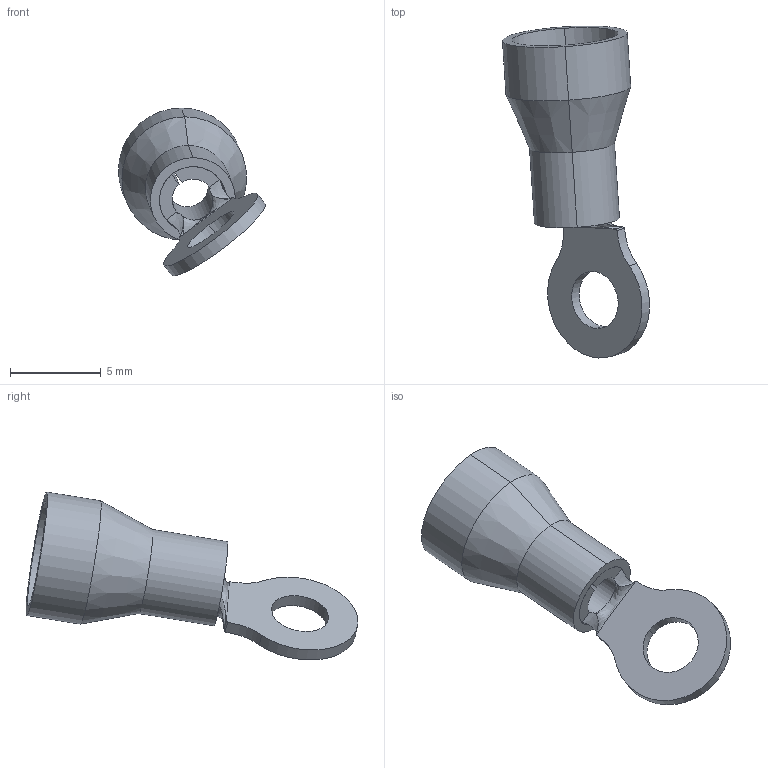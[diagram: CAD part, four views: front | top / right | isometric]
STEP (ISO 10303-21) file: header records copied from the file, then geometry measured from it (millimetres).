
FILE_DESCRIPTION (( 'STEP AP214' ), '1' );
FILE_NAME ('278072 Optikit T-K-PVC-2-3.STEP', '2020-02-19T09:36:45', ( '' ), ( '' ), 'SwSTEP 2.0', 'SolidWorks 2018', '' );
FILE_SCHEMA (( 'AUTOMOTIVE_DESIGN' ));
Length unit declared in the file: millimetre
Products named in the file (3): Îïëåòêà 2; ﾍﾊﾈ-RV 2-3,2; 278072 Optikit T-K-PVC-2-3
Assembly tree (2 placements, depth 2):
  278072 Optikit T-K-PVC-2-3
    ﾍﾊﾈ-RV 2-3,2
    Îïëåòêà 2
Bounding box: 8.12 x 18.33 x 9.27 mm (x, y, z)
Volume: 141.9 mm3; surface area: 541.7 mm2
Topology: 2 solids, 2 shells, 40 faces, 94 edges, 56 vertices
Faces by surface type: cylinder 17, bspline 10, plane 9, cone 4
Entity records: 1596 total; most frequent: CARTESIAN_POINT 647, ORIENTED_EDGE 184, DIRECTION 162, EDGE_CURVE 92, AXIS2_PLACEMENT_3D 65, VERTEX_POINT 56, EDGE_LOOP 44, ADVANCED_FACE 40
